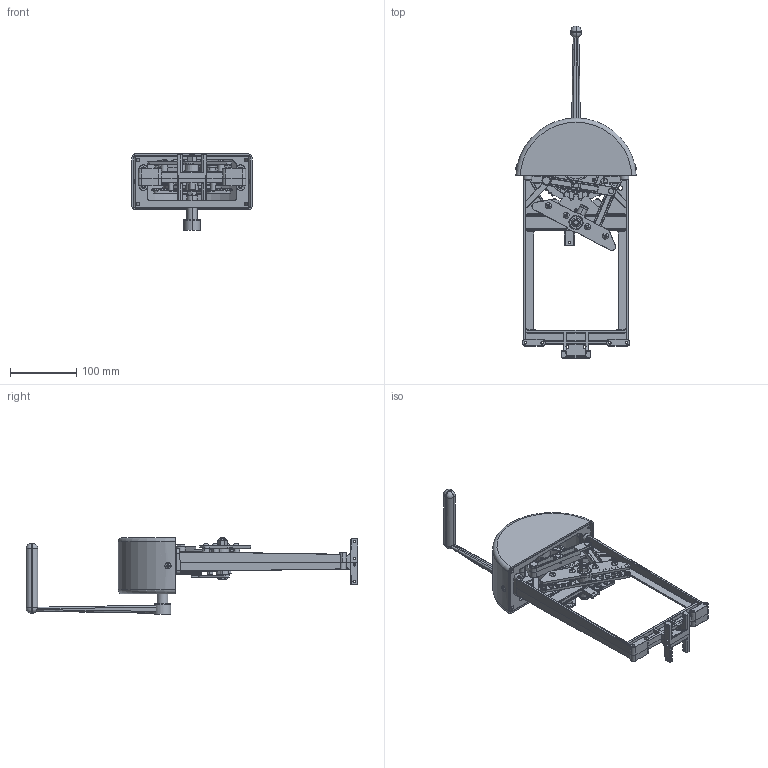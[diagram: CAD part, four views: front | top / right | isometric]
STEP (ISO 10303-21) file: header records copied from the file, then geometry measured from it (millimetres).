
FILE_DESCRIPTION (( 'STEP AP214' ), '1' );
FILE_NAME ('2091_faces.STEP', '2019-09-20T20:04:06', ( '' ), ( '' ), 'SwSTEP 2.0', 'SolidWorks 2019', '' );
FILE_SCHEMA (( 'AUTOMOTIVE_DESIGN' ));
Length unit declared in the file: inch
Products named in the file (2): 2091_faces
Bounding box: 181.55 x 500.17 x 115.38 mm (x, y, z)
Surface area: 296164.5 mm2 (no closed solid volume)
Topology: 0 solids, 148 shells, 1896 faces, 7221 edges, 5239 vertices
Faces by surface type: cylinder 526, plane 516, cone 378, torus 347, bspline 102, sphere 27
Entity records: 109085 total; most frequent: CARTESIAN_POINT 26777, DIRECTION 12475, ORIENTED_EDGE 10373, EDGE_CURVE 7212, VERTEX_POINT 5239, AXIS2_PLACEMENT_3D 4877, CIRCLE 3081, VECTOR 2721
